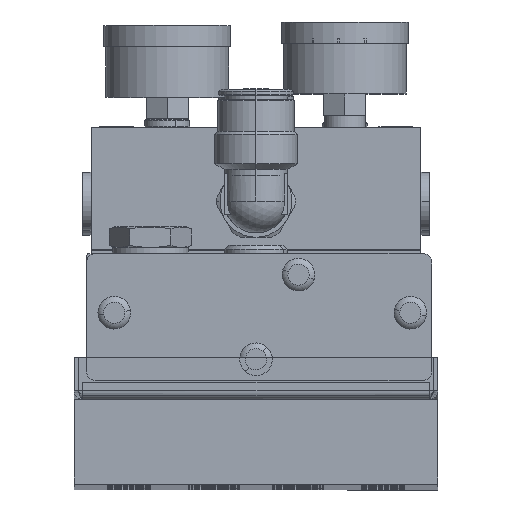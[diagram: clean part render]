
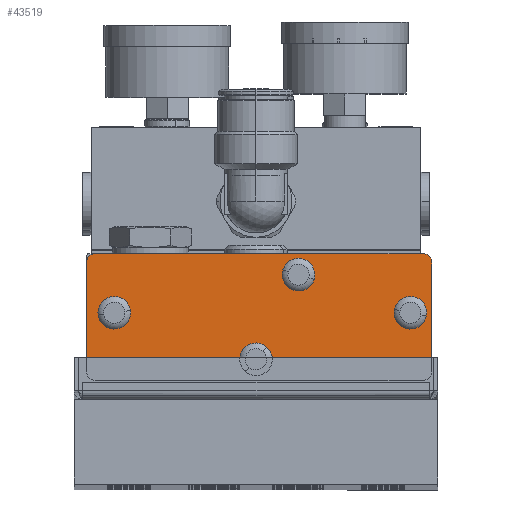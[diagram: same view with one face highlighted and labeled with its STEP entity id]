
A CAD part, top view. The second image highlights one B-rep face of the part: STEP entity #43519.
In plain terms, the highlighted planar face has unit normal (0, 0, 1).
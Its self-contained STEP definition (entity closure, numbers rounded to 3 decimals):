
#1814 = DIRECTION ( 'NONE',  ( -1., 0., 0. ) ) ;
#1838 = CARTESIAN_POINT ( 'NONE',  ( 10.05, 10., 401. ) ) ;
#1839 = DIRECTION ( 'NONE',  ( 0., 0., -1. ) ) ;
#2089 = EDGE_CURVE ( 'NONE', #18322, #29289, #33376, .T. ) ;
#2146 = EDGE_CURVE ( 'NONE', #17752, #18241, #33463, .T. ) ;
#2200 = EDGE_CURVE ( 'NONE', #29178, #29465, #33533, .T. ) ;
#3489 = CIRCLE ( 'NONE', #11203, 2. ) ;
#3902 = CIRCLE ( 'NONE', #11669, 3.857 ) ;
#5471 = AXIS2_PLACEMENT_3D ( 'NONE', #49782, #49784, #49786 ) ;
#6348 = DIRECTION ( 'NONE',  ( 1., 0., 0. ) ) ;
#6421 = CARTESIAN_POINT ( 'NONE',  ( -38., -15., 401. ) ) ;
#8147 = EDGE_CURVE ( 'NONE', #17421, #17977, #37835, .T. ) ;
#8186 = EDGE_CURVE ( 'NONE', #29465, #18334, #37954, .T. ) ;
#8207 = EDGE_CURVE ( 'NONE', #29232, #18309, #37766, .T. ) ;
#8277 = ORIENTED_EDGE ( 'NONE', *, *, #8147, .T. ) ;
#8337 = ORIENTED_EDGE ( 'NONE', *, *, #8186, .T. ) ;
#8385 = EDGE_CURVE ( 'NONE', #29579, #29554, #37879, .T. ) ;
#8426 = ORIENTED_EDGE ( 'NONE', *, *, #14299, .T. ) ;
#8493 = EDGE_CURVE ( 'NONE', #18334, #29232, #25084, .T. ) ;
#8681 = ORIENTED_EDGE ( 'NONE', *, *, #15232, .T. ) ;
#8763 = EDGE_CURVE ( 'NONE', #17977, #17421, #25114, .T. ) ;
#8766 = ORIENTED_EDGE ( 'NONE', *, *, #14423, .T. ) ;
#8879 = ORIENTED_EDGE ( 'NONE', *, *, #8207, .T. ) ;
#9399 = EDGE_CURVE ( 'NONE', #29159, #29178, #30384, .T. ) ;
#9454 = ORIENTED_EDGE ( 'NONE', *, *, #8493, .T. ) ;
#9583 = ORIENTED_EDGE ( 'NONE', *, *, #14664, .T. ) ;
#9625 = ORIENTED_EDGE ( 'NONE', *, *, #2200, .T. ) ;
#9679 = ORIENTED_EDGE ( 'NONE', *, *, #9399, .T. ) ;
#9701 = ORIENTED_EDGE ( 'NONE', *, *, #14283, .T. ) ;
#9711 = ORIENTED_EDGE ( 'NONE', *, *, #8763, .T. ) ;
#10011 = CARTESIAN_POINT ( 'NONE',  ( 39.5, -13., 401. ) ) ;
#10014 = DIRECTION ( 'NONE',  ( 1., 0., 0. ) ) ;
#10016 = DIRECTION ( 'NONE',  ( 0., 0., 1. ) ) ;
#10325 = DIRECTION ( 'NONE',  ( -1., 0., 0. ) ) ;
#10329 = DIRECTION ( 'NONE',  ( 0., 0., -1. ) ) ;
#10333 = CARTESIAN_POINT ( 'NONE',  ( 0., -10., 401. ) ) ;
#11097 = CARTESIAN_POINT ( 'NONE',  ( -33.5, 1., 401. ) ) ;
#11103 = DIRECTION ( 'NONE',  ( 0., 0., -1. ) ) ;
#11106 = DIRECTION ( 'NONE',  ( -1., 0., 0. ) ) ;
#11203 = AXIS2_PLACEMENT_3D ( 'NONE', #10011, #10016, #10014 ) ;
#11312 = AXIS2_PLACEMENT_3D ( 'NONE', #39544, #39008, #39010 ) ;
#11387 = AXIS2_PLACEMENT_3D ( 'NONE', #42803, #42806, #42854 ) ;
#11574 = AXIS2_PLACEMENT_3D ( 'NONE', #39335, #39639, #39503 ) ;
#11608 = AXIS2_PLACEMENT_3D ( 'NONE', #1838, #1839, #1814 ) ;
#11669 = AXIS2_PLACEMENT_3D ( 'NONE', #11097, #11103, #11106 ) ;
#14283 = EDGE_CURVE ( 'NONE', #29554, #29579, #37588, .T. ) ;
#14299 = EDGE_CURVE ( 'NONE', #29289, #29159, #37650, .T. ) ;
#14423 = EDGE_CURVE ( 'NONE', #29364, #18058, #25602, .T. ) ;
#14664 = EDGE_CURVE ( 'NONE', #18241, #17752, #3902, .T. ) ;
#15232 = EDGE_CURVE ( 'NONE', #18309, #18322, #3489, .T. ) ;
#15734 = EDGE_CURVE ( 'NONE', #18058, #29364, #38163, .T. ) ;
#16676 = CARTESIAN_POINT ( 'NONE',  ( -29.682, 1.544, 401. ) ) ;
#16757 = CARTESIAN_POINT ( 'NONE',  ( 6.366, 11.142, 401. ) ) ;
#17421 = VERTEX_POINT ( 'NONE', #16757 ) ;
#17752 = VERTEX_POINT ( 'NONE', #16676 ) ;
#17977 = VERTEX_POINT ( 'NONE', #36680 ) ;
#18058 = VERTEX_POINT ( 'NONE', #36431 ) ;
#18241 = VERTEX_POINT ( 'NONE', #37199 ) ;
#18309 = VERTEX_POINT ( 'NONE', #37279 ) ;
#18322 = VERTEX_POINT ( 'NONE', #37372 ) ;
#18334 = VERTEX_POINT ( 'NONE', #37234 ) ;
#18443 = FACE_BOUND ( 'NONE', #42301, .T. ) ;
#18444 = FACE_BOUND ( 'NONE', #41924, .T. ) ;
#18445 = FACE_OUTER_BOUND ( 'NONE', #42142, .T. ) ;
#18446 = FACE_BOUND ( 'NONE', #42298, .T. ) ;
#18447 = FACE_BOUND ( 'NONE', #41942, .T. ) ;
#19042 = AXIS2_PLACEMENT_3D ( 'NONE', #10333, #10329, #10325 ) ;
#25084 = CIRCLE ( 'NONE', #32596, 2. ) ;
#25114 = CIRCLE ( 'NONE', #11608, 3.857 ) ;
#25602 = CIRCLE ( 'NONE', #11387, 3.857 ) ;
#27168 = ORIENTED_EDGE ( 'NONE', *, *, #2146, .T. ) ;
#27243 = ORIENTED_EDGE ( 'NONE', *, *, #15734, .T. ) ;
#27304 = ORIENTED_EDGE ( 'NONE', *, *, #8385, .T. ) ;
#27629 = ORIENTED_EDGE ( 'NONE', *, *, #2089, .T. ) ;
#29159 = VERTEX_POINT ( 'NONE', #44432 ) ;
#29178 = VERTEX_POINT ( 'NONE', #44445 ) ;
#29232 = VERTEX_POINT ( 'NONE', #44497 ) ;
#29289 = VERTEX_POINT ( 'NONE', #44298 ) ;
#29364 = VERTEX_POINT ( 'NONE', #44819 ) ;
#29465 = VERTEX_POINT ( 'NONE', #44777 ) ;
#29554 = VERTEX_POINT ( 'NONE', #44733 ) ;
#29579 = VERTEX_POINT ( 'NONE', #44713 ) ;
#30379 = VECTOR ( 'NONE', #39648, 1000. ) ;
#30384 = LINE ( 'NONE', #39310, #30379 ) ;
#32596 = AXIS2_PLACEMENT_3D ( 'NONE', #38391, #38394, #38640 ) ;
#32600 = AXIS2_PLACEMENT_3D ( 'NONE', #45838, #45804, #45847 ) ;
#32626 = AXIS2_PLACEMENT_3D ( 'NONE', #33809, #33810, #33811 ) ;
#32677 = AXIS2_PLACEMENT_3D ( 'NONE', #45341, #45339, #45434 ) ;
#32709 = AXIS2_PLACEMENT_3D ( 'NONE', #38381, #38660, #38728 ) ;
#33376 = LINE ( 'NONE', #45598, #33380 ) ;
#33380 = VECTOR ( 'NONE', #45597, 1000. ) ;
#33463 = CIRCLE ( 'NONE', #32600, 3.857 ) ;
#33533 = CIRCLE ( 'NONE', #32677, 2. ) ;
#33809 = CARTESIAN_POINT ( 'NONE',  ( 10.05, 10., 401. ) ) ;
#33810 = DIRECTION ( 'NONE',  ( 0., 0., -1. ) ) ;
#33811 = DIRECTION ( 'NONE',  ( -1., 0., 0. ) ) ;
#33864 = CARTESIAN_POINT ( 'NONE',  ( -40., 13., 401. ) ) ;
#33949 = DIRECTION ( 'NONE',  ( 0., -1., 0. ) ) ;
#36431 = CARTESIAN_POINT ( 'NONE',  ( 2.572, -7.126, 401. ) ) ;
#36680 = CARTESIAN_POINT ( 'NONE',  ( 13.734, 8.858, 401. ) ) ;
#37199 = CARTESIAN_POINT ( 'NONE',  ( -37.318, 0.456, 401. ) ) ;
#37234 = CARTESIAN_POINT ( 'NONE',  ( -40., -13., 401. ) ) ;
#37279 = CARTESIAN_POINT ( 'NONE',  ( 39.5, -15., 401. ) ) ;
#37372 = CARTESIAN_POINT ( 'NONE',  ( 41.5, -13., 401. ) ) ;
#37588 = CIRCLE ( 'NONE', #11574, 3.857 ) ;
#37650 = CIRCLE ( 'NONE', #11312, 2. ) ;
#37766 = LINE ( 'NONE', #6421, #37938 ) ;
#37835 = CIRCLE ( 'NONE', #32626, 3.857 ) ;
#37879 = CIRCLE ( 'NONE', #32709, 3.857 ) ;
#37938 = VECTOR ( 'NONE', #6348, 1000. ) ;
#37945 = VECTOR ( 'NONE', #33949, 1000. ) ;
#37954 = LINE ( 'NONE', #33864, #37945 ) ;
#38163 = CIRCLE ( 'NONE', #19042, 3.857 ) ;
#38381 = CARTESIAN_POINT ( 'NONE',  ( 36.5, 1., 401. ) ) ;
#38391 = CARTESIAN_POINT ( 'NONE',  ( -38., -13., 401. ) ) ;
#38394 = DIRECTION ( 'NONE',  ( 0., 0., 1. ) ) ;
#38640 = DIRECTION ( 'NONE',  ( -1., 0., 0. ) ) ;
#38660 = DIRECTION ( 'NONE',  ( 0., 0., -1. ) ) ;
#38728 = DIRECTION ( 'NONE',  ( -1., 0., 0. ) ) ;
#39008 = DIRECTION ( 'NONE',  ( 0., 0., 1. ) ) ;
#39010 = DIRECTION ( 'NONE',  ( 1., 0., 0. ) ) ;
#39310 = CARTESIAN_POINT ( 'NONE',  ( -38., 15., 401. ) ) ;
#39335 = CARTESIAN_POINT ( 'NONE',  ( 36.5, 1., 401. ) ) ;
#39503 = DIRECTION ( 'NONE',  ( -1., 0., 0. ) ) ;
#39544 = CARTESIAN_POINT ( 'NONE',  ( 39.5, 13., 401. ) ) ;
#39639 = DIRECTION ( 'NONE',  ( 0., 0., -1. ) ) ;
#39648 = DIRECTION ( 'NONE',  ( -1., 0., 0. ) ) ;
#41924 = EDGE_LOOP ( 'NONE', ( #27168, #9583 ) ) ;
#41942 = EDGE_LOOP ( 'NONE', ( #9711, #8277 ) ) ;
#42142 = EDGE_LOOP ( 'NONE', ( #9625, #8337, #9454, #8879, #8681, #27629, #8426, #9679 ) ) ;
#42298 = EDGE_LOOP ( 'NONE', ( #27243, #8766 ) ) ;
#42301 = EDGE_LOOP ( 'NONE', ( #9701, #27304 ) ) ;
#42803 = CARTESIAN_POINT ( 'NONE',  ( 0., -10., 401. ) ) ;
#42806 = DIRECTION ( 'NONE',  ( 0., 0., -1. ) ) ;
#42854 = DIRECTION ( 'NONE',  ( -1., 0., 0. ) ) ;
#43519 = ADVANCED_FACE ( 'NONE', ( #18443, #18447, #18444, #18446, #18445 ), #49770, .F. ) ;
#44298 = CARTESIAN_POINT ( 'NONE',  ( 41.5, 13., 401. ) ) ;
#44432 = CARTESIAN_POINT ( 'NONE',  ( 39.5, 15., 401. ) ) ;
#44445 = CARTESIAN_POINT ( 'NONE',  ( -38., 15., 401. ) ) ;
#44497 = CARTESIAN_POINT ( 'NONE',  ( -38., -15., 401. ) ) ;
#44713 = CARTESIAN_POINT ( 'NONE',  ( 32.725, 1.79, 401. ) ) ;
#44733 = CARTESIAN_POINT ( 'NONE',  ( 40.275, 0.21, 401. ) ) ;
#44777 = CARTESIAN_POINT ( 'NONE',  ( -40., 13., 401. ) ) ;
#44819 = CARTESIAN_POINT ( 'NONE',  ( -2.572, -12.874, 401. ) ) ;
#45339 = DIRECTION ( 'NONE',  ( 0., 0., 1. ) ) ;
#45341 = CARTESIAN_POINT ( 'NONE',  ( -38., 13., 401. ) ) ;
#45434 = DIRECTION ( 'NONE',  ( -1., 0., 0. ) ) ;
#45597 = DIRECTION ( 'NONE',  ( 0., 1., 0. ) ) ;
#45598 = CARTESIAN_POINT ( 'NONE',  ( 41.5, 13., 401. ) ) ;
#45804 = DIRECTION ( 'NONE',  ( 0., 0., -1. ) ) ;
#45838 = CARTESIAN_POINT ( 'NONE',  ( -33.5, 1., 401. ) ) ;
#45847 = DIRECTION ( 'NONE',  ( -1., 0., 0. ) ) ;
#49770 = PLANE ( 'NONE',  #5471 ) ;
#49782 = CARTESIAN_POINT ( 'NONE',  ( -38., 13., 401. ) ) ;
#49784 = DIRECTION ( 'NONE',  ( 0., 0., -1. ) ) ;
#49786 = DIRECTION ( 'NONE',  ( -1., 0., 0. ) ) ;
